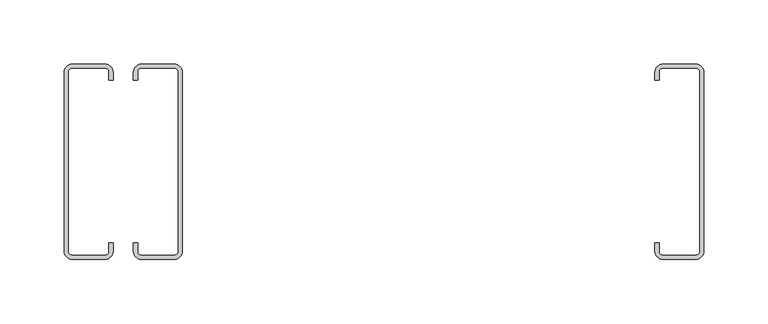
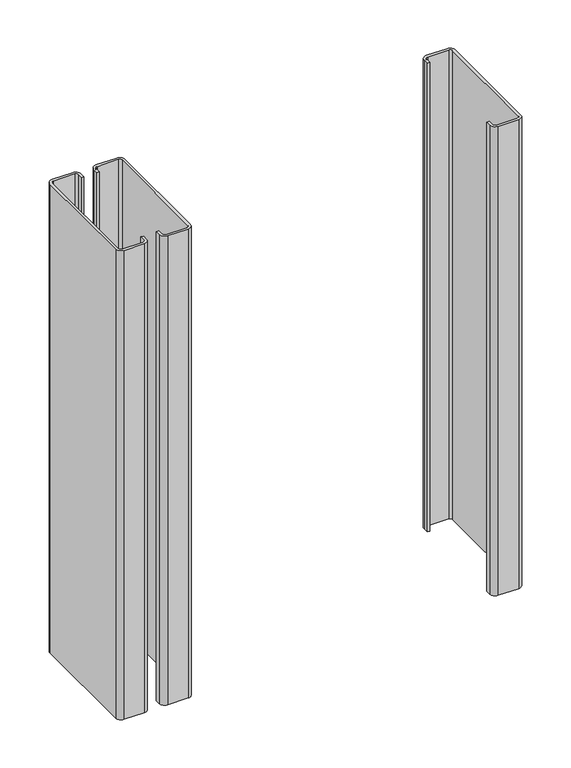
"""IFC4 building model written with IfcOpenShell, lengths in millimetres: proxy geometry, Durabond Generic Model Metal Stud Array Right : CRAi Generic Model Metal Stud Array."""

from ifc_helpers import new_model, si_unit, point, frame_2d, origin, origin_with_axes, place, context, project, spatial, polyline, circle_curve, trimmed, segment, composite_curve, outline, extrude, source, transform, mapped, element, save


def generic_models_259c97a0(model_context):
    return source(origin(), model_context, "Body", "SweptSolid", [
        extrude(outline(composite_curve([segment(polyline([(2024.075, 63.5), (2024.075, 69.85)]), True, "CONTINUOUS"), segment(trimmed(circle_curve(frame_2d((2030.425, 69.85)), 6.35), [point((2024.075, 69.85))], [point((2030.425, 76.2))], False, "CARTESIAN"), True, "CONTINUOUS"), segment(polyline([(2030.425, 76.2), (2055.825, 76.2)]), True, "CONTINUOUS"), segment(trimmed(circle_curve(frame_2d((2055.825, 69.85)), 6.35), [point((2055.825, 76.2))], [point((2062.175, 69.85))], False, "CARTESIAN"), True, "CONTINUOUS"), segment(polyline([(2062.175, 69.85), (2062.175, -69.85)]), True, "CONTINUOUS"), segment(trimmed(circle_curve(frame_2d((2055.825, -69.85)), 6.35), [point((2062.175, -69.85))], [point((2055.825, -76.2))], False, "CARTESIAN"), True, "CONTINUOUS"), segment(polyline([(2055.825, -76.2), (2030.425, -76.2)]), True, "CONTINUOUS"), segment(trimmed(circle_curve(frame_2d((2030.425, -69.85)), 6.35), [point((2030.425, -76.2))], [point((2024.075, -69.85))], False, "CARTESIAN"), True, "CONTINUOUS"), segment(polyline([(2024.075, -69.85), (2024.075, -63.5), (2027.25, -63.5), (2027.25, -70.2679713)]), True, "CONTINUOUS"), segment(trimmed(circle_curve(frame_2d((2030.425, -69.85)), 3.2023936), [point((2027.25, -70.2679713))], [point((2030.0070287, -73.025))], True, "CARTESIAN"), True, "CONTINUOUS"), segment(polyline([(2030.0070287, -73.025), (2056.2429713, -73.025)]), True, "CONTINUOUS"), segment(trimmed(circle_curve(frame_2d((2055.825, -69.85)), 3.2023936), [point((2056.2429713, -73.025))], [point((2059.0, -70.2679713))], True, "CARTESIAN"), True, "CONTINUOUS"), segment(polyline([(2059.0, -70.2679713), (2059.0, 70.2679713)]), True, "CONTINUOUS"), segment(trimmed(circle_curve(frame_2d((2055.825, 69.85)), 3.2023936), [point((2059.0, 70.2679713))], [point((2056.2429713, 73.025))], True, "CARTESIAN"), True, "CONTINUOUS"), segment(polyline([(2056.2429713, 73.025), (2030.0070287, 73.025)]), True, "CONTINUOUS"), segment(trimmed(circle_curve(frame_2d((2030.425, 69.85)), 3.2023936), [point((2030.0070287, 73.025))], [point((2027.25, 70.2679713))], True, "CARTESIAN"), True, "CONTINUOUS"), segment(polyline([(2027.25, 70.2679713), (2027.25, 63.5), (2024.075, 63.5)]), True, "CONTINUOUS")], self_intersect=False)), origin_with_axes(), (0.0, 0.0, 1.0), 609.6),
        extrude(outline(composite_curve([segment(polyline([(2430.475, 63.5), (2430.475, 69.85)]), True, "CONTINUOUS"), segment(trimmed(circle_curve(frame_2d((2436.825, 69.85)), 6.35), [point((2430.475, 69.85))], [point((2436.825, 76.2))], False, "CARTESIAN"), True, "CONTINUOUS"), segment(polyline([(2436.825, 76.2), (2462.225, 76.2)]), True, "CONTINUOUS"), segment(trimmed(circle_curve(frame_2d((2462.225, 69.85)), 6.35), [point((2462.225, 76.2))], [point((2468.575, 69.85))], False, "CARTESIAN"), True, "CONTINUOUS"), segment(polyline([(2468.575, 69.85), (2468.575, -69.85)]), True, "CONTINUOUS"), segment(trimmed(circle_curve(frame_2d((2462.225, -69.85)), 6.35), [point((2468.575, -69.85))], [point((2462.225, -76.2))], False, "CARTESIAN"), True, "CONTINUOUS"), segment(polyline([(2462.225, -76.2), (2436.825, -76.2)]), True, "CONTINUOUS"), segment(trimmed(circle_curve(frame_2d((2436.825, -69.85)), 6.35), [point((2436.825, -76.2))], [point((2430.475, -69.85))], False, "CARTESIAN"), True, "CONTINUOUS"), segment(polyline([(2430.475, -69.85), (2430.475, -63.5), (2433.65, -63.5), (2433.65, -70.2679713)]), True, "CONTINUOUS"), segment(trimmed(circle_curve(frame_2d((2436.825, -69.85)), 3.2023936), [point((2433.65, -70.2679713))], [point((2436.4070287, -73.025))], True, "CARTESIAN"), True, "CONTINUOUS"), segment(polyline([(2436.4070287, -73.025), (2462.6429713, -73.025)]), True, "CONTINUOUS"), segment(trimmed(circle_curve(frame_2d((2462.225, -69.85)), 3.2023936), [point((2462.6429713, -73.025))], [point((2465.4, -70.2679713))], True, "CARTESIAN"), True, "CONTINUOUS"), segment(polyline([(2465.4, -70.2679713), (2465.4, 70.2679713)]), True, "CONTINUOUS"), segment(trimmed(circle_curve(frame_2d((2462.225, 69.85)), 3.2023936), [point((2465.4, 70.2679713))], [point((2462.6429713, 73.025))], True, "CARTESIAN"), True, "CONTINUOUS"), segment(polyline([(2462.6429713, 73.025), (2436.4070287, 73.025)]), True, "CONTINUOUS"), segment(trimmed(circle_curve(frame_2d((2436.825, 69.85)), 3.2023936), [point((2436.4070287, 73.025))], [point((2433.65, 70.2679713))], True, "CARTESIAN"), True, "CONTINUOUS"), segment(polyline([(2433.65, 70.2679713), (2433.65, 63.5), (2430.475, 63.5)]), True, "CONTINUOUS")], self_intersect=False)), origin_with_axes(), (0.0, 0.0, 1.0), 609.6),
        extrude(outline(composite_curve([segment(polyline([(2008.2, -63.5), (2008.2, -69.85)]), True, "CONTINUOUS"), segment(trimmed(circle_curve(frame_2d((2001.85, -69.85)), 6.35), [point((2008.2, -69.85))], [point((2001.85, -76.2))], False, "CARTESIAN"), True, "CONTINUOUS"), segment(polyline([(2001.85, -76.2), (1976.45, -76.2)]), True, "CONTINUOUS"), segment(trimmed(circle_curve(frame_2d((1976.45, -69.85)), 6.35), [point((1976.45, -76.2))], [point((1970.1, -69.85))], False, "CARTESIAN"), True, "CONTINUOUS"), segment(polyline([(1970.1, -69.85), (1970.1, 69.85)]), True, "CONTINUOUS"), segment(trimmed(circle_curve(frame_2d((1976.45, 69.85)), 6.35), [point((1970.1, 69.85))], [point((1976.45, 76.2))], False, "CARTESIAN"), True, "CONTINUOUS"), segment(polyline([(1976.45, 76.2), (2001.85, 76.2)]), True, "CONTINUOUS"), segment(trimmed(circle_curve(frame_2d((2001.85, 69.85)), 6.35), [point((2001.85, 76.2))], [point((2008.2, 69.85))], False, "CARTESIAN"), True, "CONTINUOUS"), segment(polyline([(2008.2, 69.85), (2008.2, 63.5), (2005.025, 63.5), (2005.025, 70.2679713)]), True, "CONTINUOUS"), segment(trimmed(circle_curve(frame_2d((2001.85, 69.85)), 3.2023936), [point((2005.025, 70.2679713))], [point((2002.2679713, 73.025))], True, "CARTESIAN"), True, "CONTINUOUS"), segment(polyline([(2002.2679713, 73.025), (1976.0320287, 73.025)]), True, "CONTINUOUS"), segment(trimmed(circle_curve(frame_2d((1976.45, 69.85)), 3.2023936), [point((1976.0320287, 73.025))], [point((1973.275, 70.2679713))], True, "CARTESIAN"), True, "CONTINUOUS"), segment(polyline([(1973.275, 70.2679713), (1973.275, -70.2679713)]), True, "CONTINUOUS"), segment(trimmed(circle_curve(frame_2d((1976.45, -69.85)), 3.2023936), [point((1973.275, -70.2679713))], [point((1976.0320287, -73.025))], True, "CARTESIAN"), True, "CONTINUOUS"), segment(polyline([(1976.0320287, -73.025), (2002.2679713, -73.025)]), True, "CONTINUOUS"), segment(trimmed(circle_curve(frame_2d((2001.85, -69.85)), 3.2023936), [point((2002.2679713, -73.025))], [point((2005.025, -70.2679713))], True, "CARTESIAN"), True, "CONTINUOUS"), segment(polyline([(2005.025, -70.2679713), (2005.025, -63.5), (2008.2, -63.5)]), True, "CONTINUOUS")], self_intersect=False)), origin_with_axes(), (0.0, 0.0, 1.0), 609.6),
    ])


if __name__ == "__main__":
    model = new_model("IFC4")
    model_context = context("Model", 3, world=origin())
    ifc_project = project(units=[si_unit("LENGTHUNIT", "METRE", prefix="MILLI")], contexts=[model_context])
    site = spatial("IfcSite", under=ifc_project)
    building = spatial("IfcBuilding", under=site)
    placement = place(None, origin())
    generic_models_shape = generic_models_259c97a0(model_context)
    element("IfcBuildingElementProxy", 1, Name="Durabond Generic Model Metal Stud Array Right : CRAi Generic Model Metal Stud Array", ObjectType="Durabond Generic Model Metal Stud Array Right : CRAi Generic Model Metal Stud Array", at=placement, inside=building, context=model_context, shape_type="MappedRepresentation", body=[
        mapped(generic_models_shape, transform((0.0, 0.0, 0.0), x_axis=(1.0, 0.0, 0.0), y_axis=(0.0, 1.0, 0.0), z_axis=(0.0, 0.0, 1.0))),
    ])
    save(model, "model.ifc")
